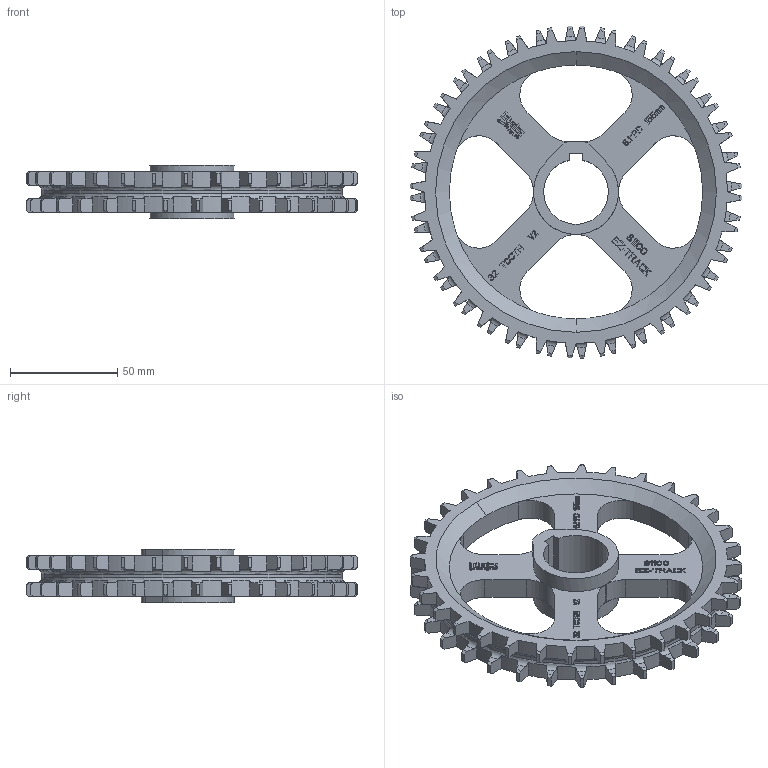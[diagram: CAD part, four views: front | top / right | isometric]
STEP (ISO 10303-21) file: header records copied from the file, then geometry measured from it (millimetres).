
FILE_DESCRIPTION((''),'2;1');
FILE_NAME('S1100_EZ_TRACK_CLEAN_61X1_PILOT','2008-12-12T',('jmumphre'),(''),'PRO/ENGINEER BY PARAMETRIC TECHNOLOGY CORPORATION, 2008150','PRO/ENGINEER BY PARAMETRIC TECHNOLOGY CORPORATION, 2008150','');
FILE_SCHEMA(('CONFIG_CONTROL_DESIGN'));
Length unit declared in the file: inch
Products named in the file (1): S1100_EZ_TRACK_CLEAN_61X1_PILOT
Bounding box: 154.72 x 154.72 x 24.89 mm (x, y, z)
Volume: 139018.1 mm3; surface area: 44825.1 mm2
Topology: 1 solids, 1 shells, 1575 faces, 4534 edges, 3016 vertices
Faces by surface type: plane 1324, cylinder 179, cone 68, torus 4
Entity records: 52106 total; most frequent: CARTESIAN_POINT 10813, ORIENTED_EDGE 9068, DIRECTION 7878, EDGE_CURVE 4534, VECTOR 3692, LINE 3692, VERTEX_POINT 3016, AXIS2_PLACEMENT_3D 2093
